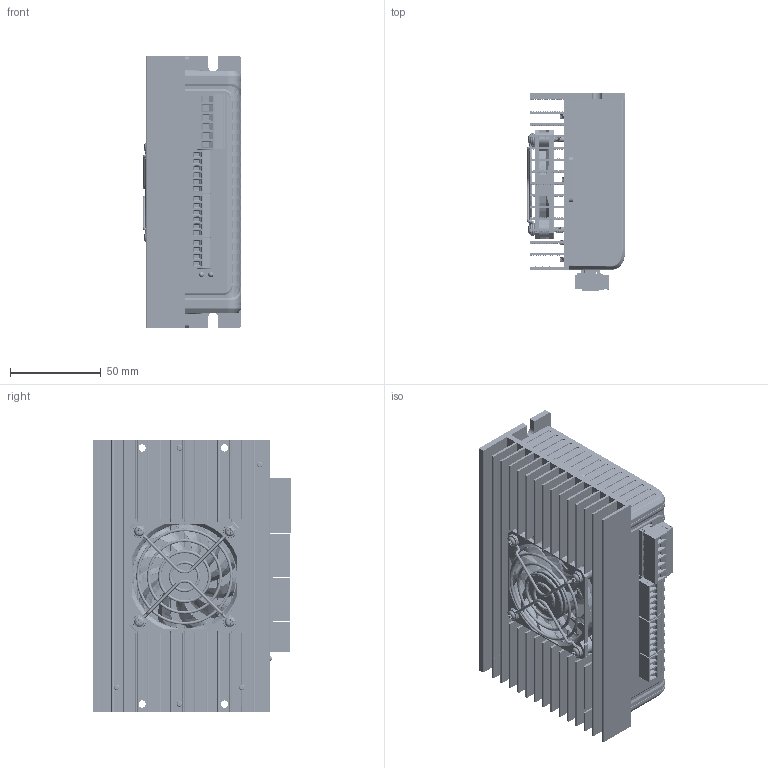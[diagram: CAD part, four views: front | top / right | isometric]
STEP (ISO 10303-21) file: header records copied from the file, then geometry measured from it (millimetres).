
FILE_DESCRIPTION (( 'STEP AP214' ), '1' );
FILE_NAME ('2HSS86.STEP', '2017-08-09T00:23:11', ( 'Sky123.Org' ), ( 'Sky123.Org' ), 'SwSTEP 2.0', 'SolidWorks 2010', '' );
FILE_SCHEMA (( 'AUTOMOTIVE_DESIGN' ));
Length unit declared in the file: millimetre
Products named in the file (19): two led; 3.81 4way; 86敕遠陔裔赽; Switch-Piano-DIP-6; 3.81-6B; RJ21; 6弇3.81傷赽; 埴芛湍簽M3x20; MSTB 2,5-6-G-5,08; 60x60x10FAN; Cap electrolitic radial 22x35; 5.08 6way; 60FAN GUARD; 3.81-4; M3x6麥芛蹟佪; 2HSS86; M3; 2HSS86 PCB; 86散热器
Assembly tree (27 placements, depth 2):
  2HSS86
    M3x6麥芛蹟佪  x2
    3.81 4way
    86敕遠陔裔赽
    3.81-4
    two led
    86散热器
    60FAN GUARD
    MSTB 2,5-6-G-5,08
    6弇3.81傷赽  x2
    埴芛湍簽M3x20  x4
    Cap electrolitic radial 22x35  x2
    3.81-6B  x2
    M3  x3
    Switch-Piano-DIP-6
    2HSS86 PCB
    RJ21
    60x60x10FAN
    5.08 6way
Bounding box: 54.6 x 109.28 x 150 mm (x, y, z)
Volume: 181929.5 mm3; surface area: 232055.7 mm2
Topology: 22 solids, 55 shells, 8520 faces, 23615 edges, 15232 vertices
Faces by surface type: plane 4529, cylinder 2412, bspline 1067, torus 281, cone 162, sphere 69
Entity records: 349050 total; most frequent: CARTESIAN_POINT 128642, ORIENTED_EDGE 37988, DIRECTION 31685, EDGE_CURVE 19665, VERTEX_POINT 12701, VECTOR 11715, LINE 11715, AXIS2_PLACEMENT_3D 9985
